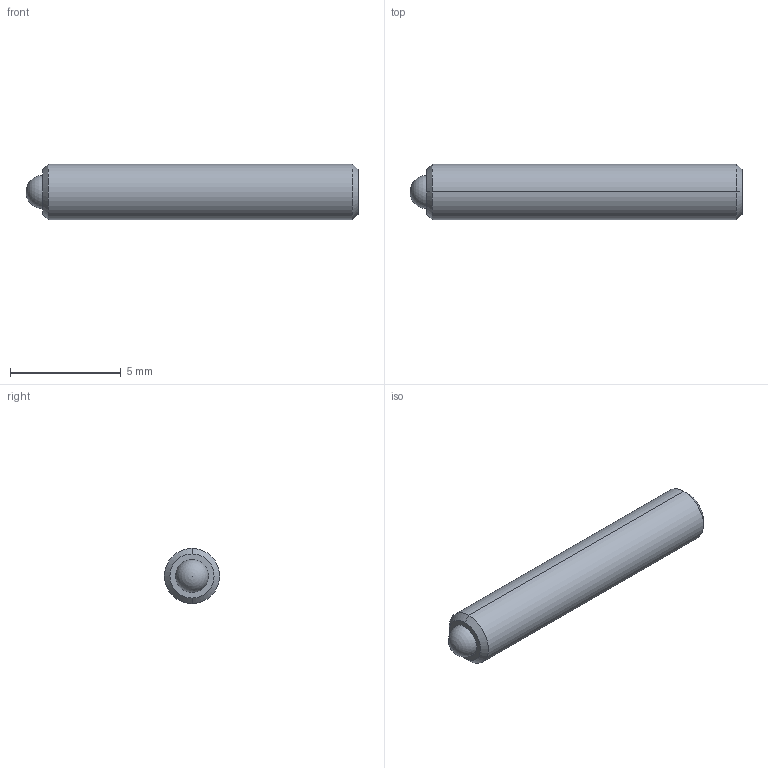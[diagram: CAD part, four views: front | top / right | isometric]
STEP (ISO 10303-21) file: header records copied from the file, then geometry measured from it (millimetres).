
FILE_DESCRIPTION (( 'STEP AP214' ), '1' );
FILE_NAME ('TS25-20-15.STEP', '2015-04-29T16:25:26', ( 'workpc' ), ( 'Microsoft' ), 'SwSTEP 2.0', 'SolidWorks 2013', '' );
FILE_SCHEMA (( 'AUTOMOTIVE_DESIGN' ));
Length unit declared in the file: millimetre
Products named in the file (1): TS25-20-15
Bounding box: 15 x 2.5 x 2.5 mm (x, y, z)
Volume: 65.9 mm3; surface area: 140.5 mm2
Topology: 2 solids, 2 shells, 20 faces, 45 edges, 29 vertices
Faces by surface type: plane 10, cylinder 4, cone 4, sphere 2
Entity records: 587 total; most frequent: DIRECTION 96, CARTESIAN_POINT 87, ORIENTED_EDGE 80, EDGE_CURVE 40, AXIS2_PLACEMENT_3D 35, LINE 26, VECTOR 26, VERTEX_POINT 26
